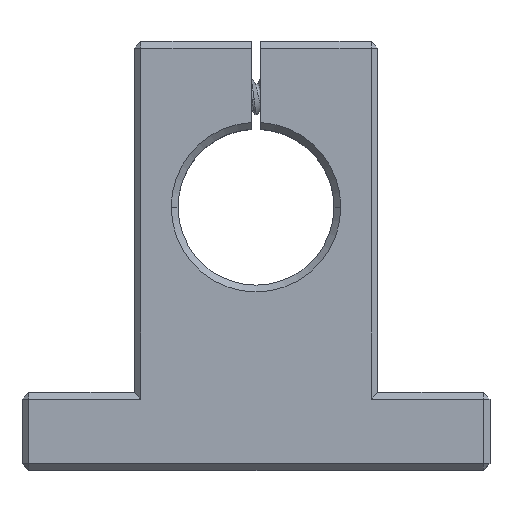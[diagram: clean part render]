
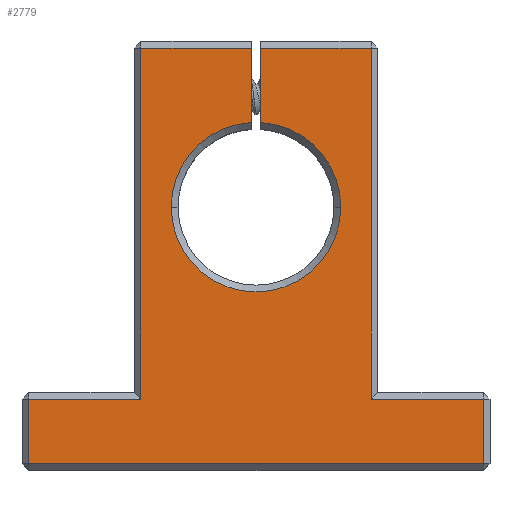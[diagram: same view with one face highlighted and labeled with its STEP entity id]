
A CAD part, top view. The second image highlights one B-rep face of the part: STEP entity #2779.
In plain terms, the highlighted planar face has unit normal (0, 0, 1).
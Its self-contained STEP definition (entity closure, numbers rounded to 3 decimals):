
#41 = CARTESIAN_POINT ( 'NONE',  ( 0.5, 43.3, 16. ) ) ;
#91 = LINE ( 'NONE', #500, #4799 ) ;
#283 = EDGE_CURVE ( 'NONE', #7158, #7414, #7311, .T. ) ;
#289 = VECTOR ( 'NONE', #4846, 1000. ) ;
#344 = CARTESIAN_POINT ( 'NONE',  ( 0.5, 43.3, 16. ) ) ;
#404 = EDGE_CURVE ( 'NONE', #1385, #6166, #2224, .T. ) ;
#409 = LINE ( 'NONE', #3980, #3473 ) ;
#486 = LINE ( 'NONE', #4235, #289 ) ;
#500 = CARTESIAN_POINT ( 'NONE',  ( -23.3, 0., 16. ) ) ;
#547 = ORIENTED_EDGE ( 'NONE', *, *, #6945, .T. ) ;
#548 = ORIENTED_EDGE ( 'NONE', *, *, #1182, .T. ) ;
#594 = LINE ( 'NONE', #6135, #6917 ) ;
#681 = EDGE_CURVE ( 'NONE', #1013, #7158, #1461, .T. ) ;
#731 = VERTEX_POINT ( 'NONE', #7637 ) ;
#768 = CARTESIAN_POINT ( 'NONE',  ( -8.7, 27., 16. ) ) ;
#902 = VECTOR ( 'NONE', #7410, 1000. ) ;
#965 = CARTESIAN_POINT ( 'NONE',  ( -23.3, 0.7, 16. ) ) ;
#1013 = VERTEX_POINT ( 'NONE', #41 ) ;
#1058 = LINE ( 'NONE', #6329, #2091 ) ;
#1099 = VERTEX_POINT ( 'NONE', #6298 ) ;
#1157 = ORIENTED_EDGE ( 'NONE', *, *, #681, .T. ) ;
#1182 = EDGE_CURVE ( 'NONE', #5993, #1099, #594, .T. ) ;
#1248 = CIRCLE ( 'NONE', #4421, 8.7 ) ;
#1385 = VERTEX_POINT ( 'NONE', #768 ) ;
#1461 = LINE ( 'NONE', #7528, #902 ) ;
#1651 = ORIENTED_EDGE ( 'NONE', *, *, #4950, .T. ) ;
#1670 = DIRECTION ( 'NONE',  ( 0., 1., 0. ) ) ;
#1761 = EDGE_LOOP ( 'NONE', ( #1157, #2622, #5416, #7060, #3315, #5611, #7935, #5903, #7367, #547, #6198, #548, #1795, #1651 ) ) ;
#1792 = CARTESIAN_POINT ( 'NONE',  ( 0., 27., 16. ) ) ;
#1795 = ORIENTED_EDGE ( 'NONE', *, *, #6352, .T. ) ;
#1815 = DIRECTION ( 'NONE',  ( 0., 0., -1. ) ) ;
#1867 = DIRECTION ( 'NONE',  ( 1., 0., 0. ) ) ;
#1949 = DIRECTION ( 'NONE',  ( 0., 0., -1. ) ) ;
#1970 = VERTEX_POINT ( 'NONE', #2792 ) ;
#2091 = VECTOR ( 'NONE', #3818, 1000. ) ;
#2223 = VERTEX_POINT ( 'NONE', #965 ) ;
#2224 = CIRCLE ( 'NONE', #3120, 8.7 ) ;
#2259 = EDGE_CURVE ( 'NONE', #6166, #731, #4230, .T. ) ;
#2298 = AXIS2_PLACEMENT_3D ( 'NONE', #1792, #1815, #1867 ) ;
#2310 = DIRECTION ( 'NONE',  ( 0., -1., 0. ) ) ;
#2601 = EDGE_CURVE ( 'NONE', #7414, #1385, #1248, .T. ) ;
#2622 = ORIENTED_EDGE ( 'NONE', *, *, #283, .T. ) ;
#2779 = ADVANCED_FACE ( 'NONE', ( #5774 ), #4688, .T. ) ;
#2792 = CARTESIAN_POINT ( 'NONE',  ( 11.8, 43.3, 16. ) ) ;
#2803 = CARTESIAN_POINT ( 'NONE',  ( -11.8, 43.3, 16. ) ) ;
#2811 = VECTOR ( 'NONE', #5723, 1000. ) ;
#2870 = DIRECTION ( 'NONE',  ( 1., 0., 0. ) ) ;
#2952 = EDGE_CURVE ( 'NONE', #6094, #2223, #91, .T. ) ;
#3007 = DIRECTION ( 'NONE',  ( -1., 0., 0. ) ) ;
#3120 = AXIS2_PLACEMENT_3D ( 'NONE', #3631, #1949, #3849 ) ;
#3213 = VERTEX_POINT ( 'NONE', #2803 ) ;
#3315 = ORIENTED_EDGE ( 'NONE', *, *, #2259, .T. ) ;
#3346 = CARTESIAN_POINT ( 'NONE',  ( 0., 27., 16. ) ) ;
#3355 = CARTESIAN_POINT ( 'NONE',  ( 8.7, 27., 16. ) ) ;
#3395 = DIRECTION ( 'NONE',  ( -1., 0., 0. ) ) ;
#3473 = VECTOR ( 'NONE', #7647, 1000. ) ;
#3478 = CARTESIAN_POINT ( 'NONE',  ( 23.3, 8., 16. ) ) ;
#3590 = CARTESIAN_POINT ( 'NONE',  ( 11.8, 44., 16. ) ) ;
#3631 = CARTESIAN_POINT ( 'NONE',  ( 0., 27., 16. ) ) ;
#3632 = CARTESIAN_POINT ( 'NONE',  ( 23.3, 7.3, 16. ) ) ;
#3818 = DIRECTION ( 'NONE',  ( -1., 0., 0. ) ) ;
#3849 = DIRECTION ( 'NONE',  ( 1., 0., 0. ) ) ;
#3965 = DIRECTION ( 'NONE',  ( 1., 0., 0. ) ) ;
#3980 = CARTESIAN_POINT ( 'NONE',  ( -11.8, 8., 16. ) ) ;
#4038 = CARTESIAN_POINT ( 'NONE',  ( -0.5, 44., 16. ) ) ;
#4039 = VECTOR ( 'NONE', #4787, 1000. ) ;
#4105 = CARTESIAN_POINT ( 'NONE',  ( -0.5, 35.686, 16. ) ) ;
#4126 = VECTOR ( 'NONE', #1670, 1000. ) ;
#4217 = LINE ( 'NONE', #3590, #4039 ) ;
#4230 = LINE ( 'NONE', #4038, #2811 ) ;
#4235 = CARTESIAN_POINT ( 'NONE',  ( 24., 0.7, 16. ) ) ;
#4265 = VERTEX_POINT ( 'NONE', #5431 ) ;
#4421 = AXIS2_PLACEMENT_3D ( 'NONE', #3346, #7626, #3965 ) ;
#4599 = LINE ( 'NONE', #344, #6027 ) ;
#4688 = PLANE ( 'NONE',  #7715 ) ;
#4746 = EDGE_CURVE ( 'NONE', #4265, #6094, #1058, .T. ) ;
#4787 = DIRECTION ( 'NONE',  ( 0., 1., 0. ) ) ;
#4799 = VECTOR ( 'NONE', #2310, 1000. ) ;
#4846 = DIRECTION ( 'NONE',  ( 1., 0., 0. ) ) ;
#4950 = EDGE_CURVE ( 'NONE', #1970, #1013, #4599, .T. ) ;
#4961 = VECTOR ( 'NONE', #3007, 1000. ) ;
#5007 = DIRECTION ( 'NONE',  ( -1., 0., 0. ) ) ;
#5287 = CARTESIAN_POINT ( 'NONE',  ( 0., 27., 16. ) ) ;
#5416 = ORIENTED_EDGE ( 'NONE', *, *, #2601, .T. ) ;
#5431 = CARTESIAN_POINT ( 'NONE',  ( -11.8, 7.3, 16. ) ) ;
#5566 = CARTESIAN_POINT ( 'NONE',  ( 0.5, 35.686, 16. ) ) ;
#5601 = EDGE_CURVE ( 'NONE', #3213, #4265, #409, .T. ) ;
#5611 = ORIENTED_EDGE ( 'NONE', *, *, #6999, .T. ) ;
#5723 = DIRECTION ( 'NONE',  ( 0., 1., 0. ) ) ;
#5756 = LINE ( 'NONE', #3478, #4126 ) ;
#5774 = FACE_OUTER_BOUND ( 'NONE', #1761, .T. ) ;
#5903 = ORIENTED_EDGE ( 'NONE', *, *, #4746, .T. ) ;
#5993 = VERTEX_POINT ( 'NONE', #3632 ) ;
#6027 = VECTOR ( 'NONE', #3395, 1000. ) ;
#6094 = VERTEX_POINT ( 'NONE', #7636 ) ;
#6135 = CARTESIAN_POINT ( 'NONE',  ( 12.5, 7.3, 16. ) ) ;
#6166 = VERTEX_POINT ( 'NONE', #4105 ) ;
#6198 = ORIENTED_EDGE ( 'NONE', *, *, #6764, .T. ) ;
#6298 = CARTESIAN_POINT ( 'NONE',  ( 11.8, 7.3, 16. ) ) ;
#6329 = CARTESIAN_POINT ( 'NONE',  ( -24., 7.3, 16. ) ) ;
#6352 = EDGE_CURVE ( 'NONE', #1099, #1970, #4217, .T. ) ;
#6516 = DIRECTION ( 'NONE',  ( 0., 0., 1. ) ) ;
#6592 = CARTESIAN_POINT ( 'NONE',  ( 23.3, 0.7, 16. ) ) ;
#6764 = EDGE_CURVE ( 'NONE', #7902, #5993, #5756, .T. ) ;
#6917 = VECTOR ( 'NONE', #5007, 1000. ) ;
#6945 = EDGE_CURVE ( 'NONE', #2223, #7902, #486, .T. ) ;
#6999 = EDGE_CURVE ( 'NONE', #731, #3213, #7000, .T. ) ;
#7000 = LINE ( 'NONE', #7294, #4961 ) ;
#7060 = ORIENTED_EDGE ( 'NONE', *, *, #404, .T. ) ;
#7158 = VERTEX_POINT ( 'NONE', #5566 ) ;
#7294 = CARTESIAN_POINT ( 'NONE',  ( -12.5, 43.3, 16. ) ) ;
#7311 = CIRCLE ( 'NONE', #2298, 8.7 ) ;
#7367 = ORIENTED_EDGE ( 'NONE', *, *, #2952, .T. ) ;
#7410 = DIRECTION ( 'NONE',  ( 0., -1., 0. ) ) ;
#7414 = VERTEX_POINT ( 'NONE', #3355 ) ;
#7528 = CARTESIAN_POINT ( 'NONE',  ( 0.5, 34.984, 16. ) ) ;
#7626 = DIRECTION ( 'NONE',  ( 0., 0., -1. ) ) ;
#7636 = CARTESIAN_POINT ( 'NONE',  ( -23.3, 7.3, 16. ) ) ;
#7637 = CARTESIAN_POINT ( 'NONE',  ( -0.5, 43.3, 16. ) ) ;
#7647 = DIRECTION ( 'NONE',  ( 0., -1., 0. ) ) ;
#7715 = AXIS2_PLACEMENT_3D ( 'NONE', #5287, #6516, #2870 ) ;
#7902 = VERTEX_POINT ( 'NONE', #6592 ) ;
#7935 = ORIENTED_EDGE ( 'NONE', *, *, #5601, .T. ) ;
